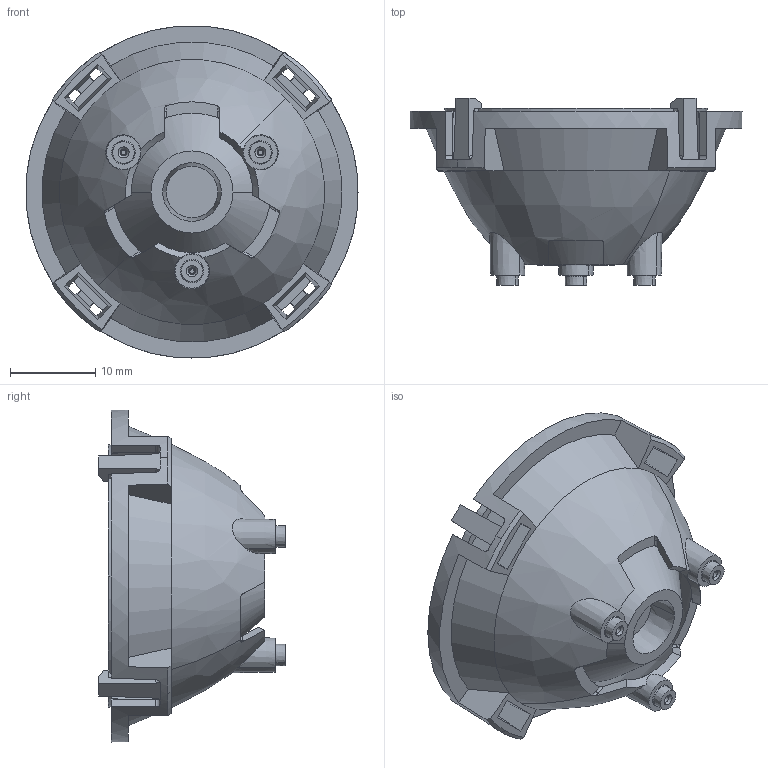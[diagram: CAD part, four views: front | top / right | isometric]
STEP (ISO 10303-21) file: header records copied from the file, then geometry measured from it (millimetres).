
FILE_DESCRIPTION (( 'STEP AP214' ), '1' );
FILE_NAME ('LLxx-1T06-P3_RevF.STEP', '2014-01-22T17:47:28', ( '' ), ( '' ), 'SwSTEP 2.0', 'SolidWorks 2013', '' );
FILE_SCHEMA (( 'AUTOMOTIVE_DESIGN' ));
Length unit declared in the file: millimetre
Products named in the file (4): LLxx-1T06-P3_RevF; 2300-0036_Lens_Holder_10W-Emitter_revF_cpy_01-21-14; 2400-0033_RevD_Distorted-no-dimples
Assembly tree (3 placements, depth 3):
  LLxx-1T06-P3_RevF
    2300-0036_Lens_Holder_10W-Emitter_revF_cpy_01-21-14
    2400-0033_RevD_Distorted-no-dimples
      2400-0033_RevD_Distorted-no-dimples
Bounding box: 38.95 x 21.9 x 38.95 mm (x, y, z)
Volume: 10603.3 mm3; surface area: 7522.8 mm2
Topology: 2 solids, 2 shells, 227 faces, 601 edges, 385 vertices
Faces by surface type: plane 121, cone 52, cylinder 30, bspline 22, torus 2
Entity records: 10160 total; most frequent: CARTESIAN_POINT 2285, ORIENTED_EDGE 1202, DIRECTION 1062, EDGE_CURVE 601, VERTEX_POINT 385, AXIS2_PLACEMENT_3D 378, LINE 306, VECTOR 306
